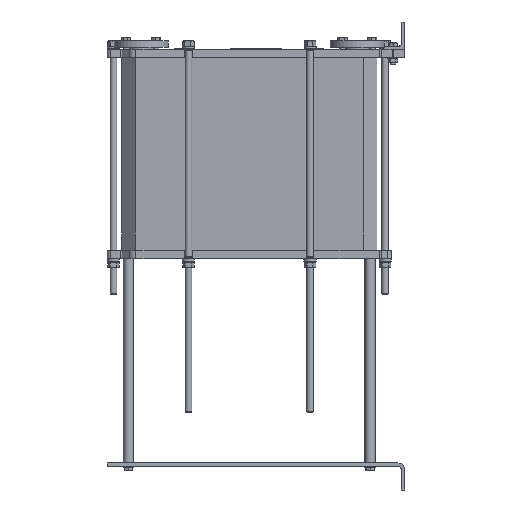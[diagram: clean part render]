
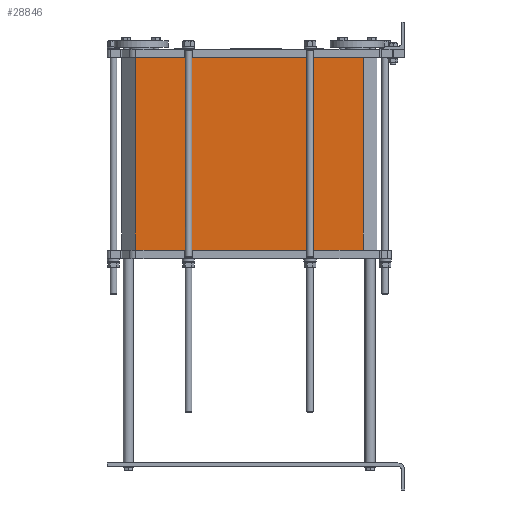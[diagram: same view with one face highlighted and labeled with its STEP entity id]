
A CAD part, left-side view. The second image highlights one B-rep face of the part: STEP entity #28846.
In plain terms, the highlighted planar face has unit normal (-1, 0, 0).
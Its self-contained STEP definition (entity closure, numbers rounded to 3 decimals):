
#2255 = LINE ( 'NONE', #46743, #56378 ) ;
#2606 = DIRECTION ( 'NONE',  ( 0., 1., 0. ) ) ;
#2840 = ORIENTED_EDGE ( 'NONE', *, *, #77718, .T. ) ;
#4453 = VERTEX_POINT ( 'NONE', #55336 ) ;
#5843 = CARTESIAN_POINT ( 'NONE',  ( 29.6, 122.041, -104.9 ) ) ;
#6397 = FACE_OUTER_BOUND ( 'NONE', #78411, .T. ) ;
#13869 = CARTESIAN_POINT ( 'NONE',  ( 29.6, 122.041, -104.9 ) ) ;
#17339 = PLANE ( 'NONE',  #42990 ) ;
#17820 = EDGE_CURVE ( 'NONE', #34073, #80695, #45255, .T. ) ;
#18652 = DIRECTION ( 'NONE',  ( -1., 0., 0. ) ) ;
#19985 = DIRECTION ( 'NONE',  ( 0., 0., -1. ) ) ;
#24603 = CARTESIAN_POINT ( 'NONE',  ( 29.6, 122.041, -674.9 ) ) ;
#28748 = EDGE_CURVE ( 'NONE', #80695, #4453, #68806, .T. ) ;
#28846 = ADVANCED_FACE ( 'NONE', ( #6397 ), #17339, .T. ) ;
#34073 = VERTEX_POINT ( 'NONE', #13869 ) ;
#42990 = AXIS2_PLACEMENT_3D ( 'NONE', #77277, #18652, #2606 ) ;
#43501 = ORIENTED_EDGE ( 'NONE', *, *, #28748, .F. ) ;
#45255 = LINE ( 'NONE', #5843, #78180 ) ;
#46743 = CARTESIAN_POINT ( 'NONE',  ( 29.6, 817., -104.9 ) ) ;
#47342 = DIRECTION ( 'NONE',  ( 0., 1., 0. ) ) ;
#50067 = LINE ( 'NONE', #80357, #54802 ) ;
#54802 = VECTOR ( 'NONE', #95176, 1000. ) ;
#55336 = CARTESIAN_POINT ( 'NONE',  ( 29.6, 797.959, -674.9 ) ) ;
#56378 = VECTOR ( 'NONE', #61910, 1000. ) ;
#59379 = CARTESIAN_POINT ( 'NONE',  ( 29.6, 797.959, -104.9 ) ) ;
#61910 = DIRECTION ( 'NONE',  ( 0., -1., 0. ) ) ;
#67057 = ORIENTED_EDGE ( 'NONE', *, *, #93301, .F. ) ;
#68806 = LINE ( 'NONE', #93090, #73509 ) ;
#73509 = VECTOR ( 'NONE', #47342, 1000. ) ;
#77277 = CARTESIAN_POINT ( 'NONE',  ( 29.6, 122.041, -104.9 ) ) ;
#77718 = EDGE_CURVE ( 'NONE', #95807, #4453, #50067, .T. ) ;
#78180 = VECTOR ( 'NONE', #19985, 1000. ) ;
#78411 = EDGE_LOOP ( 'NONE', ( #67057, #2840, #43501, #97611 ) ) ;
#80357 = CARTESIAN_POINT ( 'NONE',  ( 29.6, 797.959, -104.9 ) ) ;
#80695 = VERTEX_POINT ( 'NONE', #24603 ) ;
#93090 = CARTESIAN_POINT ( 'NONE',  ( 29.6, 817., -674.9 ) ) ;
#93301 = EDGE_CURVE ( 'NONE', #95807, #34073, #2255, .T. ) ;
#95176 = DIRECTION ( 'NONE',  ( 0., 0., -1. ) ) ;
#95807 = VERTEX_POINT ( 'NONE', #59379 ) ;
#97611 = ORIENTED_EDGE ( 'NONE', *, *, #17820, .F. ) ;
